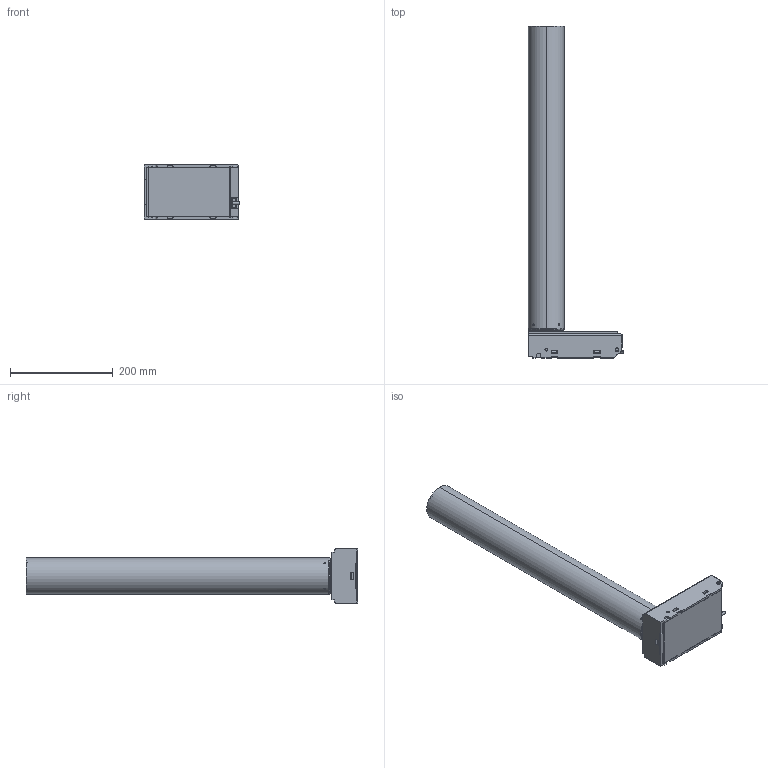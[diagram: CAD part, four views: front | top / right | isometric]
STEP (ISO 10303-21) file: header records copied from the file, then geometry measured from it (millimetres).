
FILE_DESCRIPTION (( 'STEP AP203' ), '1' );
FILE_NAME ('3D_TL14.STEP', '2019-07-01T11:06:49', ( '' ), ( '' ), 'SwSTEP 2.0', 'SolidWorks 2015', '' );
FILE_SCHEMA (( 'CONFIG_CONTROL_DESIGN' ));
Length unit declared in the file: millimetre
Products named in the file (1): 3D_TL14
Bounding box: 185.5 x 645 x 107 mm (x, y, z)
Volume: 3196355.1 mm3; surface area: 243155 mm2
Topology: 1 solids, 5 shells, 483 faces, 1274 edges, 794 vertices
Faces by surface type: plane 265, cylinder 158, bspline 38, cone 22
Entity records: 15847 total; most frequent: CARTESIAN_POINT 4052, ORIENTED_EDGE 2512, DIRECTION 2334, EDGE_CURVE 1256, VECTOR 882, LINE 882, VERTEX_POINT 794, AXIS2_PLACEMENT_3D 726
